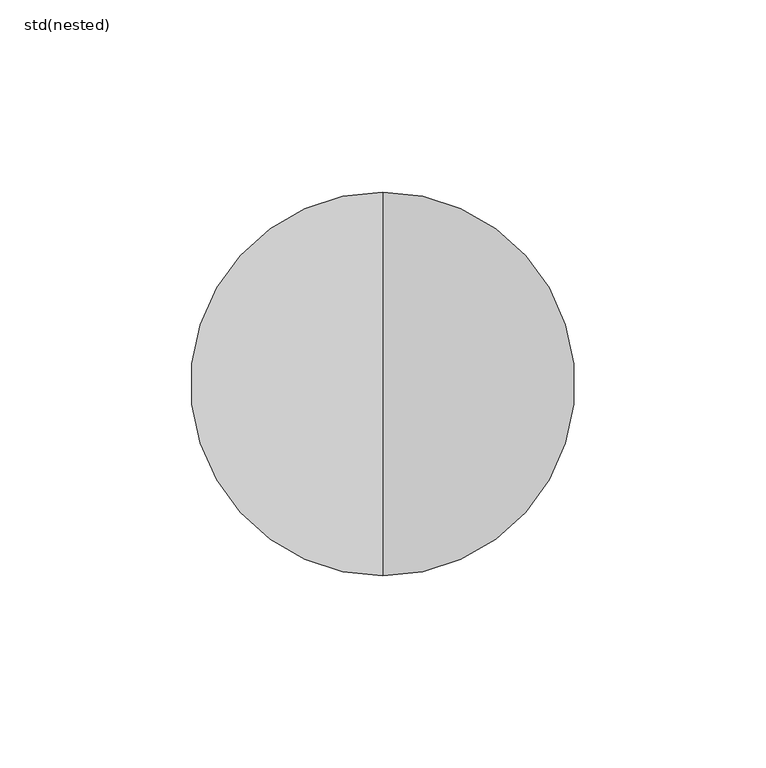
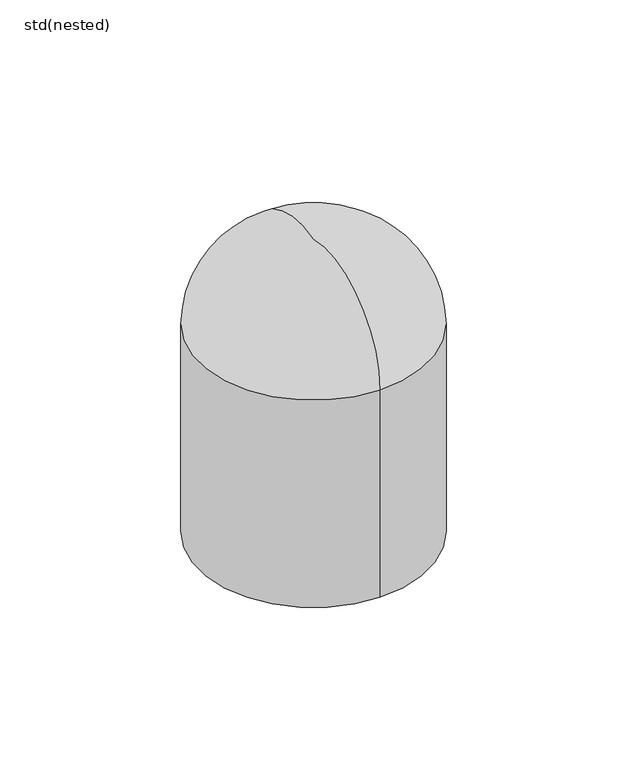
"""IFC4 building model written with IfcOpenShell, lengths in millimetres: alarm geometry, ZZZ_do not use_CD_WPB_flashing light_ACO : std(nested)."""

from ifc_helpers import new_model, si_unit, point, frame, origin, place, context, project, spatial, circle_curve, ellipse_curve, trimmed, source, transform, mapped, element, save
from ifc_brep_helpers import plane_surface, cylinder_surface, revolved_surface, advanced_brep


def std_nested_414b5e36(model_context):
    return source(origin(), model_context, "Body", "AdvancedBrep", [
        advanced_brep(
        [(0.0, 50.0, 45.0), (0.0, -50.0, 45.0), (0.0, -50.0, 140.2823885), (0.0, 50.0, 140.2823885), (0.0, 0.0, 45.0), (0.0, 0.0, 179.4045054)],
        [
            (0, 1, circle_curve(frame((0.0, 0.0, 45.0), z_axis=(0.0, 0.0, 1.0), x_axis=(0.0, -1.0, 0.0)), 50.0)),
            (1, 2),
            (2, 3, circle_curve(frame((0.0, 0.0, 140.2823885), z_axis=(0.0, 0.0, -1.0), x_axis=(0.0, -1.0, 0.0)), 50.0)),
            (3, 0),
            (1, 0, circle_curve(frame((0.0, 0.0, 45.0), z_axis=(0.0, 0.0, 1.0), x_axis=(0.0, -1.0, 0.0)), 50.0)),
            (3, 2, circle_curve(frame((0.0, 0.0, 140.2823885), z_axis=(0.0, 0.0, -1.0), x_axis=(0.0, -1.0, 0.0)), 50.0)),
            (4, 1),
            (0, 4),
            (2, 5, circle_curve(frame((0.0, -9.6945998, 140.2823885), z_axis=(-1.0, 0.0, 0.0), x_axis=(0.0, 1.0, 0.0)), 40.3054002)),
            (5, 3, circle_curve(frame((0.0, 9.6945998, 140.2823885), z_axis=(-1.0, 0.0, 0.0), x_axis=(0.0, -1.0, 0.0)), 40.3054002)),
        ],
        [
            cylinder_surface(frame((0.0, 0.0, 1125.0), z_axis=(0.0, 0.0, -1.0), x_axis=(0.0, -1.0, 0.0)), 50.0),
            plane_surface(frame((0.0, 0.0, 45.0), z_axis=(0.0, 0.0, -1.0), x_axis=(0.0, -1.0, 0.0))),
            revolved_surface(trimmed(ellipse_curve(frame((0.0, -9.6945998, 140.2823885), z_axis=(1.0, 0.0, 0.0), x_axis=(0.0, 1.0, 0.0)), 40.3054002, 40.3054002), [point((0.0, 0.0, 179.4045054))], [point((0.0, -50.0, 140.2823885))], True, "CARTESIAN"), (0.0, 0.0, 1125.0), (0.0, 0.0, -1.0)),
        ],
        [
            (0, [[1, 2, 3, 4]]),
            (0, [[5, -4, 6, -2]]),
            (1, [[7, -1, 8]]),
            (1, [[-8, -5, -7]]),
            (2, [[-3, 9, 10]]),
            (2, [[-6, -10, -9]]),
        ],
    ),
    ])


if __name__ == "__main__":
    model = new_model("IFC4")
    model_context = context("Model", 3, world=origin())
    ifc_project = project(units=[si_unit("LENGTHUNIT", "METRE", prefix="MILLI")], contexts=[model_context])
    site = spatial("IfcSite", under=ifc_project)
    building = spatial("IfcBuilding", under=site)
    placement = place(None, origin())
    std_nested_shape = std_nested_414b5e36(model_context)
    element("IfcAlarm", 1, ObjectType="ZZZ_do not use_CD_WPB_flashing light_ACO : std(nested)", at=placement, inside=building, context=model_context, shape_type="MappedRepresentation", body=[
        mapped(std_nested_shape, transform((0.0, 0.0, 0.0), x_axis=(1.0, 0.0, 0.0), y_axis=(0.0, 1.0, 0.0), z_axis=(0.0, 0.0, 1.0))),
    ])
    save(model, "model.ifc")
